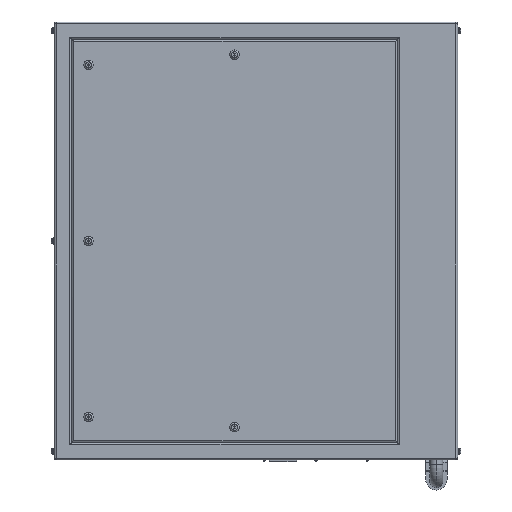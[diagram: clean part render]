
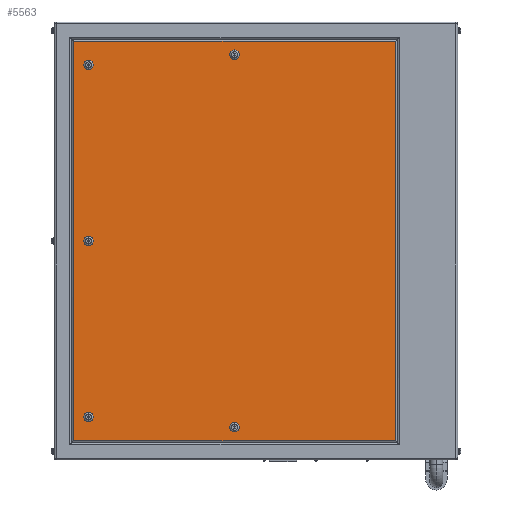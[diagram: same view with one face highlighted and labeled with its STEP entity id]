
A CAD part, left-side view. The second image highlights one B-rep face of the part: STEP entity #5563.
In plain terms, the highlighted planar face has unit normal (-1, 0, 0).
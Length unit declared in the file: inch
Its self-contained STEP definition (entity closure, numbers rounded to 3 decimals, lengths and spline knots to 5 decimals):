
#210 = CIRCLE ( 'NONE', #5485, 0.55 ) ;
#211 = VERTEX_POINT ( 'NONE', #20416 ) ;
#458 = CARTESIAN_POINT ( 'NONE',  ( -11., 19.5, -19.95 ) ) ;
#475 = FACE_OUTER_BOUND ( 'NONE', #20913, .T. ) ;
#488 = ORIENTED_EDGE ( 'NONE', *, *, #16590, .T. ) ;
#610 = FACE_BOUND ( 'NONE', #10756, .T. ) ;
#1003 = EDGE_CURVE ( 'NONE', #2139, #4208, #13251, .T. ) ;
#1251 = VECTOR ( 'NONE', #13702, 39.37008 ) ;
#1301 = CIRCLE ( 'NONE', #10017, 0.55 ) ;
#1362 = CIRCLE ( 'NONE', #16593, 0.55 ) ;
#1842 = DIRECTION ( 'NONE',  ( 1., 0., 0. ) ) ;
#1910 = ORIENTED_EDGE ( 'NONE', *, *, #4607, .T. ) ;
#1989 = CARTESIAN_POINT ( 'NONE',  ( -11., 19.5, -20.5 ) ) ;
#2004 = CARTESIAN_POINT ( 'NONE',  ( -11., 19.5, 0.55 ) ) ;
#2139 = VERTEX_POINT ( 'NONE', #2004 ) ;
#2206 = DIRECTION ( 'NONE',  ( 0., 0., -1. ) ) ;
#2217 = CARTESIAN_POINT ( 'NONE',  ( -11., 21.24, -25.5 ) ) ;
#3011 = EDGE_CURVE ( 'NONE', #17772, #211, #9320, .T. ) ;
#3465 = ORIENTED_EDGE ( 'NONE', *, *, #6221, .T. ) ;
#3544 = VECTOR ( 'NONE', #20043, 39.37008 ) ;
#3570 = EDGE_CURVE ( 'NONE', #9539, #4067, #11566, .T. ) ;
#4029 = FACE_BOUND ( 'NONE', #22512, .T. ) ;
#4067 = VERTEX_POINT ( 'NONE', #20971 ) ;
#4109 = CIRCLE ( 'NONE', #4474, 0.55 ) ;
#4165 = CARTESIAN_POINT ( 'NONE',  ( -11., 19.5, 0. ) ) ;
#4208 = VERTEX_POINT ( 'NONE', #15096 ) ;
#4474 = AXIS2_PLACEMENT_3D ( 'NONE', #9751, #17206, #7980 ) ;
#4607 = EDGE_CURVE ( 'NONE', #16299, #12780, #4109, .T. ) ;
#4943 = EDGE_LOOP ( 'NONE', ( #18123, #9445 ) ) ;
#4972 = CARTESIAN_POINT ( 'NONE',  ( -11., 2.5, -21.14 ) ) ;
#5047 = ORIENTED_EDGE ( 'NONE', *, *, #10861, .T. ) ;
#5097 = CIRCLE ( 'NONE', #13105, 0.55 ) ;
#5384 = DIRECTION ( 'NONE',  ( 0., 0., -1. ) ) ;
#5485 = AXIS2_PLACEMENT_3D ( 'NONE', #19935, #22040, #7370 ) ;
#5535 = ORIENTED_EDGE ( 'NONE', *, *, #10956, .T. ) ;
#5563 = ADVANCED_FACE ( 'NONE', ( #18255, #610, #4029, #9135, #18618, #475 ), #22961, .F. ) ;
#5680 = ORIENTED_EDGE ( 'NONE', *, *, #13074, .T. ) ;
#6104 = ORIENTED_EDGE ( 'NONE', *, *, #13057, .T. ) ;
#6127 = AXIS2_PLACEMENT_3D ( 'NONE', #21966, #13002, #2206 ) ;
#6221 = EDGE_CURVE ( 'NONE', #8822, #8857, #14725, .T. ) ;
#6312 = LINE ( 'NONE', #10106, #1251 ) ;
#6820 = VERTEX_POINT ( 'NONE', #14401 ) ;
#7140 = DIRECTION ( 'NONE',  ( 0., 0., 1. ) ) ;
#7168 = DIRECTION ( 'NONE',  ( 0., 0., -1. ) ) ;
#7198 = DIRECTION ( 'NONE',  ( 1., 0., 0. ) ) ;
#7303 = DIRECTION ( 'NONE',  ( 0., 0., -1. ) ) ;
#7370 = DIRECTION ( 'NONE',  ( 0., 0., 1. ) ) ;
#7445 = VECTOR ( 'NONE', #7303, 39.37008 ) ;
#7916 = DIRECTION ( 'NONE',  ( 1., 0., 0. ) ) ;
#7980 = DIRECTION ( 'NONE',  ( 0., 0., -1. ) ) ;
#8806 = VERTEX_POINT ( 'NONE', #20026 ) ;
#8822 = VERTEX_POINT ( 'NONE', #458 ) ;
#8857 = VERTEX_POINT ( 'NONE', #15352 ) ;
#8896 = DIRECTION ( 'NONE',  ( 1., 0., 0. ) ) ;
#9135 = FACE_BOUND ( 'NONE', #4943, .T. ) ;
#9320 = LINE ( 'NONE', #2217, #7445 ) ;
#9362 = VERTEX_POINT ( 'NONE', #13120 ) ;
#9445 = ORIENTED_EDGE ( 'NONE', *, *, #1003, .T. ) ;
#9539 = VERTEX_POINT ( 'NONE', #12315 ) ;
#9751 = CARTESIAN_POINT ( 'NONE',  ( -11., 2.5, 21.69 ) ) ;
#9805 = DIRECTION ( 'NONE',  ( 0., 0., -1. ) ) ;
#10017 = AXIS2_PLACEMENT_3D ( 'NONE', #12696, #8896, #12582 ) ;
#10046 = AXIS2_PLACEMENT_3D ( 'NONE', #18185, #1842, #7168 ) ;
#10098 = CARTESIAN_POINT ( 'NONE',  ( -11., 21.24, 23.24 ) ) ;
#10106 = CARTESIAN_POINT ( 'NONE',  ( -11., -16.24, -25.5 ) ) ;
#10206 = ORIENTED_EDGE ( 'NONE', *, *, #18595, .T. ) ;
#10561 = EDGE_CURVE ( 'NONE', #4208, #2139, #11563, .T. ) ;
#10692 = CARTESIAN_POINT ( 'NONE',  ( -11., 2.5, -21.69 ) ) ;
#10756 = EDGE_LOOP ( 'NONE', ( #11493, #1910 ) ) ;
#10814 = CARTESIAN_POINT ( 'NONE',  ( -11., 23.5, 23.24 ) ) ;
#10861 = EDGE_CURVE ( 'NONE', #11938, #8806, #1362, .T. ) ;
#10867 = AXIS2_PLACEMENT_3D ( 'NONE', #1989, #7198, #5384 ) ;
#10956 = EDGE_CURVE ( 'NONE', #8806, #11938, #210, .T. ) ;
#11414 = ORIENTED_EDGE ( 'NONE', *, *, #3570, .T. ) ;
#11493 = ORIENTED_EDGE ( 'NONE', *, *, #21016, .T. ) ;
#11563 = CIRCLE ( 'NONE', #15438, 0.55 ) ;
#11566 = CIRCLE ( 'NONE', #10046, 0.55 ) ;
#11631 = DIRECTION ( 'NONE',  ( 0., 0., -1. ) ) ;
#11938 = VERTEX_POINT ( 'NONE', #4972 ) ;
#12252 = DIRECTION ( 'NONE',  ( 0., 1., 0. ) ) ;
#12315 = CARTESIAN_POINT ( 'NONE',  ( -11., 19.5, 21.05 ) ) ;
#12437 = EDGE_CURVE ( 'NONE', #6820, #9362, #6312, .T. ) ;
#12582 = DIRECTION ( 'NONE',  ( 0., 0., -1. ) ) ;
#12696 = CARTESIAN_POINT ( 'NONE',  ( -11., 19.5, -20.5 ) ) ;
#12780 = VERTEX_POINT ( 'NONE', #18351 ) ;
#12814 = CARTESIAN_POINT ( 'NONE',  ( -11., 19.5, 0. ) ) ;
#13002 = DIRECTION ( 'NONE',  ( 1., 0., 0. ) ) ;
#13057 = EDGE_CURVE ( 'NONE', #8857, #8822, #1301, .T. ) ;
#13074 = EDGE_CURVE ( 'NONE', #211, #6820, #16227, .T. ) ;
#13105 = AXIS2_PLACEMENT_3D ( 'NONE', #22793, #21366, #21483 ) ;
#13120 = CARTESIAN_POINT ( 'NONE',  ( -11., -16.24, 23.24 ) ) ;
#13251 = CIRCLE ( 'NONE', #17123, 0.55 ) ;
#13702 = DIRECTION ( 'NONE',  ( 0., 0., 1. ) ) ;
#14401 = CARTESIAN_POINT ( 'NONE',  ( -11., -16.24, -23.24 ) ) ;
#14725 = CIRCLE ( 'NONE', #10867, 0.55 ) ;
#14863 = AXIS2_PLACEMENT_3D ( 'NONE', #22499, #15742, #11631 ) ;
#15096 = CARTESIAN_POINT ( 'NONE',  ( -11., 19.5, -0.55 ) ) ;
#15352 = CARTESIAN_POINT ( 'NONE',  ( -11., 19.5, -21.05 ) ) ;
#15438 = AXIS2_PLACEMENT_3D ( 'NONE', #12814, #7916, #9805 ) ;
#15742 = DIRECTION ( 'NONE',  ( 1., 0., 0. ) ) ;
#16227 = LINE ( 'NONE', #19912, #3544 ) ;
#16299 = VERTEX_POINT ( 'NONE', #19726 ) ;
#16590 = EDGE_CURVE ( 'NONE', #9362, #17772, #19701, .T. ) ;
#16593 = AXIS2_PLACEMENT_3D ( 'NONE', #10692, #23241, #7140 ) ;
#17123 = AXIS2_PLACEMENT_3D ( 'NONE', #4165, #20423, #18770 ) ;
#17206 = DIRECTION ( 'NONE',  ( 1., 0., 0. ) ) ;
#17772 = VERTEX_POINT ( 'NONE', #10098 ) ;
#18123 = ORIENTED_EDGE ( 'NONE', *, *, #10561, .T. ) ;
#18185 = CARTESIAN_POINT ( 'NONE',  ( -11., 19.5, 20.5 ) ) ;
#18255 = FACE_BOUND ( 'NONE', #21809, .T. ) ;
#18286 = ORIENTED_EDGE ( 'NONE', *, *, #3011, .T. ) ;
#18351 = CARTESIAN_POINT ( 'NONE',  ( -11., 2.5, 21.14 ) ) ;
#18595 = EDGE_CURVE ( 'NONE', #4067, #9539, #18751, .T. ) ;
#18618 = FACE_BOUND ( 'NONE', #19120, .T. ) ;
#18751 = CIRCLE ( 'NONE', #6127, 0.55 ) ;
#18770 = DIRECTION ( 'NONE',  ( 0., 0., -1. ) ) ;
#19120 = EDGE_LOOP ( 'NONE', ( #10206, #11414 ) ) ;
#19701 = LINE ( 'NONE', #10814, #20941 ) ;
#19726 = CARTESIAN_POINT ( 'NONE',  ( -11., 2.5, 22.24 ) ) ;
#19912 = CARTESIAN_POINT ( 'NONE',  ( -11., 23.5, -23.24 ) ) ;
#19935 = CARTESIAN_POINT ( 'NONE',  ( -11., 2.5, -21.69 ) ) ;
#20026 = CARTESIAN_POINT ( 'NONE',  ( -11., 2.5, -22.24 ) ) ;
#20043 = DIRECTION ( 'NONE',  ( 0., -1., 0. ) ) ;
#20416 = CARTESIAN_POINT ( 'NONE',  ( -11., 21.24, -23.24 ) ) ;
#20423 = DIRECTION ( 'NONE',  ( 1., 0., 0. ) ) ;
#20913 = EDGE_LOOP ( 'NONE', ( #5680, #21318, #488, #18286 ) ) ;
#20941 = VECTOR ( 'NONE', #12252, 39.37008 ) ;
#20971 = CARTESIAN_POINT ( 'NONE',  ( -11., 19.5, 19.95 ) ) ;
#21016 = EDGE_CURVE ( 'NONE', #12780, #16299, #5097, .T. ) ;
#21318 = ORIENTED_EDGE ( 'NONE', *, *, #12437, .T. ) ;
#21366 = DIRECTION ( 'NONE',  ( 1., 0., 0. ) ) ;
#21483 = DIRECTION ( 'NONE',  ( 0., 0., -1. ) ) ;
#21809 = EDGE_LOOP ( 'NONE', ( #5535, #5047 ) ) ;
#21966 = CARTESIAN_POINT ( 'NONE',  ( -11., 19.5, 20.5 ) ) ;
#22040 = DIRECTION ( 'NONE',  ( 1., 0., 0. ) ) ;
#22499 = CARTESIAN_POINT ( 'NONE',  ( -11., 23.5, -25.5 ) ) ;
#22512 = EDGE_LOOP ( 'NONE', ( #6104, #3465 ) ) ;
#22793 = CARTESIAN_POINT ( 'NONE',  ( -11., 2.5, 21.69 ) ) ;
#22961 = PLANE ( 'NONE',  #14863 ) ;
#23241 = DIRECTION ( 'NONE',  ( 1., 0., 0. ) ) ;
